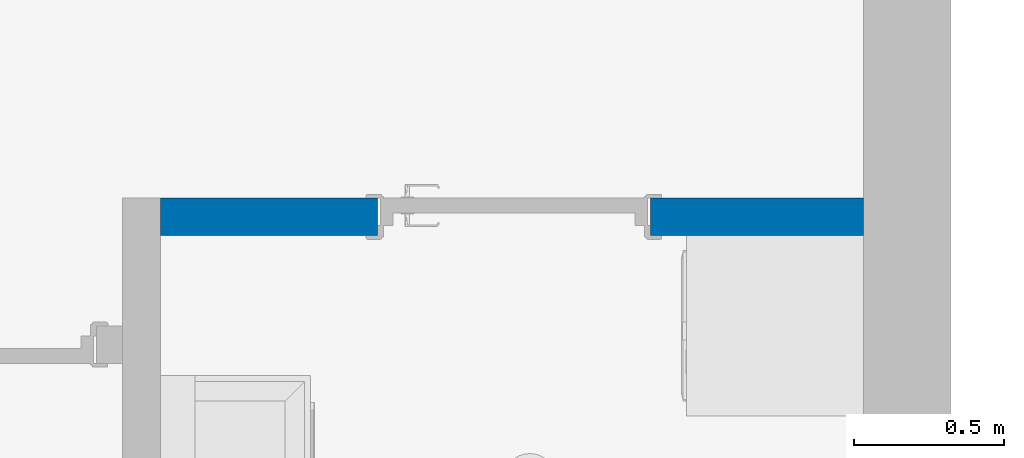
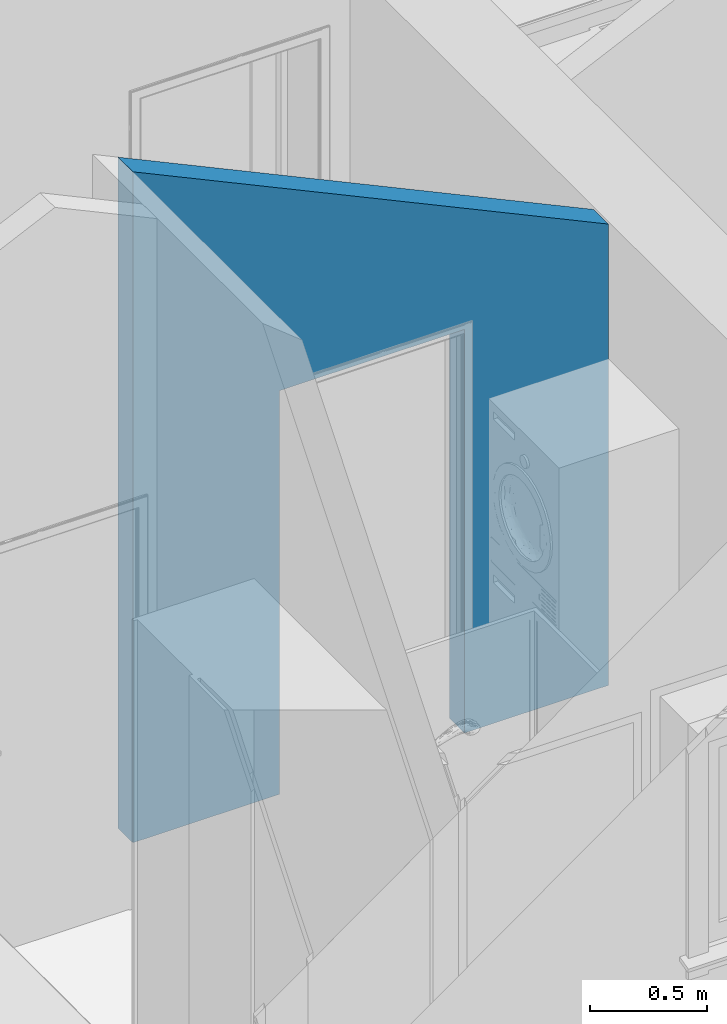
# One storey, part 5 of 44: 1 wall, 2 openings.
"""IFC2X3 building model written with IfcOpenShell, lengths in millimetres."""

from ifc_helpers import new_model, entity, si_unit, converted_unit, direction, frame, frame_2d, origin, origin_2d_with_axis, place, context, subcontext, project, spatial, polyline, rectangle, extrude, clip, bounded_halfspace, material, layer, layer_set, layer_usage, type_object, element, save


model = new_model("IFC2X3")

# Units and contexts
model_context = context("Model", 3, precision=0.01, world=origin(), true_north=direction((0.0, 1.0)))
body_context = subcontext(model_context, "Body", "Model", "MODEL_VIEW")
ifc_project = project(units=[si_unit("LENGTHUNIT", "METRE", prefix="MILLI"), si_unit("AREAUNIT", "SQUARE_METRE"), si_unit("VOLUMEUNIT", "CUBIC_METRE"), converted_unit("PLANEANGLEUNIT", "DEGREE", entity("IfcPlaneAngleMeasure", 0.017453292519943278), si_unit("PLANEANGLEUNIT", "RADIAN"), dimensions=[0, 0, 0, 0, 0, 0, 0])], contexts=[model_context])

# Site, building, storey
site_placement = place(None, origin())
site = spatial("IfcSite", under=ifc_project, at=site_placement, Name="Default", CompositionType="ELEMENT")
building_placement = place(site_placement, origin())
building = spatial("IfcBuilding", under=site, at=building_placement, CompositionType="ELEMENT")
storey_placement = place(building_placement, frame((0.0, 0.0, 2681.0)))
storey = spatial("IfcBuildingStorey", under=building, at=storey_placement, Name="Et. 2", CompositionType="ELEMENT", Elevation=2681.0)

# Wall, openings
ifc_material_1 = material(Name="Vegg - Gips - Innvendig - Hvit")
ifc_layer_1 = layer(ifc_material_1, 13.000000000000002)
ifc_material_2 = material(Name="Vegg - Stender - Stål - Isolert")
ifc_layer_2 = layer(ifc_material_2, 100.0)
ifc_layer_3 = layer(ifc_material_1, 13.000000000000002)
ifc_layer_set = layer_set([ifc_layer_1, ifc_layer_2, ifc_layer_3], Name="Basic Wall:24-GSIG-13_100_13")
ifc_layer_usage = layer_usage(ifc_layer_set, "AXIS2", "NEGATIVE", 63.00000000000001)
wall_type = type_object("IfcWallType", Name="Basic Wall:24-GSIG-13_100_13", PredefinedType="STANDARD", material=ifc_layer_set)
wall_placement = place(storey_placement, frame((13691.009586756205, 14595.058719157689, 0.0)))
wall = element("IfcWallStandardCase", 1, at=wall_placement, inside=storey, type_object=wall_type, material=ifc_layer_usage, Name="Basic Wall:24-GSIG-13_100_13", context=body_context, shape_type="Clipping", body=[
    clip(extrude(rectangle(XDim=2341.000000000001, YDim=125.99999999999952, at=frame_2d((1170.5000000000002, 1.4530598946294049e-12), x_axis=(1.0, 0.0))), origin(), (0.0, 0.0, 1.0), 3491.626227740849), bounded_halfspace(frame((0.0, -63.0, 3491.626227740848), z_axis=(0.42261826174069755, 0.0, 0.9063077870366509), x_axis=(0.0, 1.0, 0.0)), False, frame((0.0, -63.0, 3491.626227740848)), polyline([(0.0, 0.0), (2341.0, 0.0), (2341.0, 126.0), (0.0, 126.0), (0.0, 0.0)]))),
])
opening_1_placement = place(wall_placement, frame((722.0, -63.0, 0.0)))
element("IfcOpeningElement", 2, at=opening_1_placement, cuts=wall, Name="ID Hel:9x21M:1", ObjectType="Opening", context=body_context, shape_type="SweptSolid", body=[
    extrude(rectangle(XDim=910.0000000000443, YDim=2100.0000000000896, at=frame_2d((1050.0000000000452, 455.00000000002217), x_axis=(0.0, 1.0))), frame((0.0, 0.0, 0.0), z_axis=(0.0, 1.0, 0.0), x_axis=(0.0, 0.0, 1.0)), (0.0, 0.0, 1.0), 126.00000000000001),
])
opening_2_placement = place(wall_placement, frame((-13691.009586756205, -14595.058719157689, 0.0)))
element("IfcOpeningElement", 3, at=opening_2_placement, cuts=wall, Name="Basic Wall:24-GSIG-13_100_13", ObjectType="Opening", context=body_context, shape_type="SweptSolid", body=[
    extrude(rectangle(XDim=2100.00000000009, YDim=910.0000000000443, at=origin_2d_with_axis()), frame((14868.009586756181, 13008.058719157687, 1050.0), z_axis=(0.0, 1.0, 0.0), x_axis=(0.0, 0.0, 1.0)), (0.0, 0.0, 1.0), 3048.0),
])

save(model, "model.ifc")
